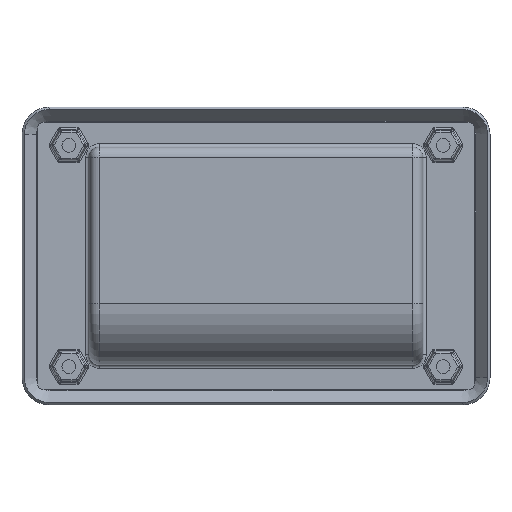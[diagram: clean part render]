
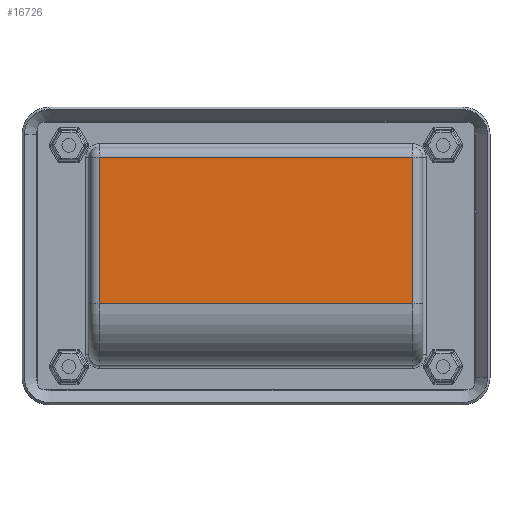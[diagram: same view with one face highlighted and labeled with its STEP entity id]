
A CAD part, front view. The second image highlights one B-rep face of the part: STEP entity #16726.
In plain terms, the highlighted planar face has unit normal (0, -1, 0) as drawn and (0, 1, 0) by its records, which use the part's own axes.
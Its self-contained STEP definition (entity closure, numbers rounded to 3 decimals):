
#1335 = LINE ( 'NONE', #13330, #8267 ) ;
#1347 = FACE_OUTER_BOUND ( 'NONE', #14763, .T. ) ;
#1385 = CARTESIAN_POINT ( 'NONE',  ( 64.25, 23.5, 14. ) ) ;
#1584 = EDGE_CURVE ( 'NONE', #10663, #6878, #2211, .T. ) ;
#1619 = ORIENTED_EDGE ( 'NONE', *, *, #17473, .T. ) ;
#1789 = DIRECTION ( 'NONE',  ( 0., 0., 1. ) ) ;
#1866 = CARTESIAN_POINT ( 'NONE',  ( 0., 23.5, 0. ) ) ;
#2182 = CARTESIAN_POINT ( 'NONE',  ( 46., 23.5, 14. ) ) ;
#2211 = LINE ( 'NONE', #11516, #16910 ) ;
#3263 = DIRECTION ( 'NONE',  ( 0., 0., -1. ) ) ;
#3282 = LINE ( 'NONE', #1385, #14306 ) ;
#3953 = AXIS2_PLACEMENT_3D ( 'NONE', #1866, #11529, #3263 ) ;
#4137 = DIRECTION ( 'NONE',  ( 0., 0., -1. ) ) ;
#4583 = EDGE_CURVE ( 'NONE', #7776, #10663, #1335, .T. ) ;
#4597 = PLANE ( 'NONE',  #3953 ) ;
#5078 = VERTEX_POINT ( 'NONE', #2182 ) ;
#6163 = LINE ( 'NONE', #8243, #13518 ) ;
#6878 = VERTEX_POINT ( 'NONE', #9253 ) ;
#7776 = VERTEX_POINT ( 'NONE', #9346 ) ;
#8243 = CARTESIAN_POINT ( 'NONE',  ( 46., 23.5, 0. ) ) ;
#8267 = VECTOR ( 'NONE', #16111, 1000. ) ;
#8405 = EDGE_CURVE ( 'NONE', #5078, #7776, #6163, .T. ) ;
#9253 = CARTESIAN_POINT ( 'NONE',  ( -46., 23.5, 14. ) ) ;
#9346 = CARTESIAN_POINT ( 'NONE',  ( 46., 23.5, -29. ) ) ;
#9851 = DIRECTION ( 'NONE',  ( 1., 0., 0. ) ) ;
#9870 = CARTESIAN_POINT ( 'NONE',  ( -46., 23.5, -29. ) ) ;
#10663 = VERTEX_POINT ( 'NONE', #9870 ) ;
#11516 = CARTESIAN_POINT ( 'NONE',  ( -46., 23.5, 0. ) ) ;
#11529 = DIRECTION ( 'NONE',  ( 0., -1., 0. ) ) ;
#13181 = ORIENTED_EDGE ( 'NONE', *, *, #1584, .T. ) ;
#13330 = CARTESIAN_POINT ( 'NONE',  ( 0., 23.5, -29. ) ) ;
#13518 = VECTOR ( 'NONE', #4137, 1000. ) ;
#13742 = ORIENTED_EDGE ( 'NONE', *, *, #8405, .T. ) ;
#14306 = VECTOR ( 'NONE', #9851, 1000. ) ;
#14763 = EDGE_LOOP ( 'NONE', ( #1619, #13742, #14991, #13181 ) ) ;
#14991 = ORIENTED_EDGE ( 'NONE', *, *, #4583, .T. ) ;
#16111 = DIRECTION ( 'NONE',  ( -1., 0., 0. ) ) ;
#16726 = ADVANCED_FACE ( 'NONE', ( #1347 ), #4597, .F. ) ;
#16910 = VECTOR ( 'NONE', #1789, 1000. ) ;
#17473 = EDGE_CURVE ( 'NONE', #6878, #5078, #3282, .T. ) ;
